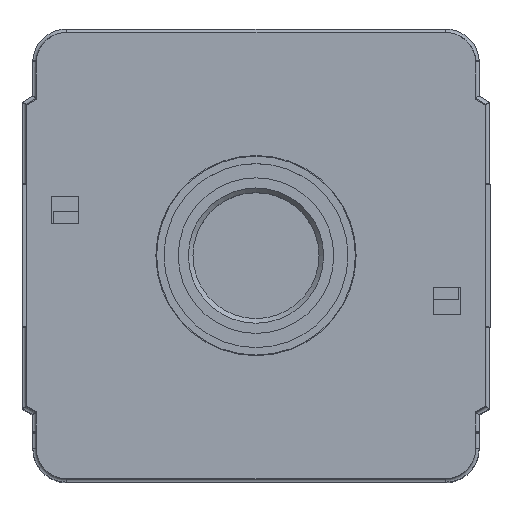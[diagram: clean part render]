
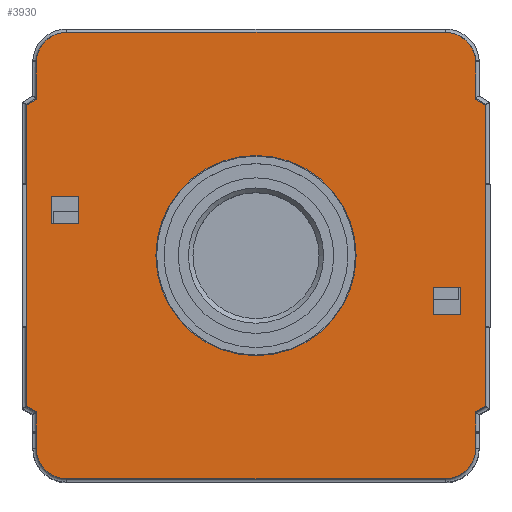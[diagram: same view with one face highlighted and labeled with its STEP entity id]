
A CAD part, top view. The second image highlights one B-rep face of the part: STEP entity #3930.
In plain terms, the highlighted planar face has unit normal (0, 0, 1).
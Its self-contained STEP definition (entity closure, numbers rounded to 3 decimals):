
#3060=CARTESIAN_POINT('',(-14.8,0.,34.4));
#3061=VERTEX_POINT('',#3060);
#3062=CARTESIAN_POINT('',(0.0,0.,34.4));
#3063=DIRECTION('',(0.0,0.0,-1.0));
#3064=DIRECTION('',(1.0,0.0,0.0));
#3065=AXIS2_PLACEMENT_3D('',#3062,#3063,#3064);
#3066=CIRCLE('',#3065,14.8);
#3067=EDGE_CURVE('',#3061,#3061,#3066,.T.);
#3085=CARTESIAN_POINT('',(26.3,-4.7,34.4));
#3086=VERTEX_POINT('',#3085);
#3093=CARTESIAN_POINT('',(26.3,-8.7,34.4));
#3094=VERTEX_POINT('',#3093);
#3095=CARTESIAN_POINT('',(26.3,-8.7,34.4));
#3096=DIRECTION('',(0.0,1.0,0.0));
#3097=VECTOR('',#3096,4.);
#3098=LINE('',#3095,#3097);
#3099=EDGE_CURVE('',#3094,#3086,#3098,.T.);
#3118=CARTESIAN_POINT('',(30.3,-8.7,34.4));
#3119=VERTEX_POINT('',#3118);
#3120=CARTESIAN_POINT('',(30.3,-8.7,34.4));
#3121=DIRECTION('',(-1.0,0.0,0.0));
#3122=VECTOR('',#3121,4.);
#3123=LINE('',#3120,#3122);
#3124=EDGE_CURVE('',#3119,#3094,#3123,.T.);
#3142=CARTESIAN_POINT('',(30.3,-4.7,34.4));
#3143=VERTEX_POINT('',#3142);
#3144=CARTESIAN_POINT('',(30.3,-4.7,34.4));
#3145=DIRECTION('',(0.0,-1.0,0.0));
#3146=VECTOR('',#3145,4.);
#3147=LINE('',#3144,#3146);
#3148=EDGE_CURVE('',#3143,#3119,#3147,.T.);
#3166=CARTESIAN_POINT('',(26.3,-4.7,34.4));
#3167=DIRECTION('',(1.0,0.0,0.0));
#3168=VECTOR('',#3167,4.);
#3169=LINE('',#3166,#3168);
#3170=EDGE_CURVE('',#3086,#3143,#3169,.T.);
#3188=CARTESIAN_POINT('',(-30.3,8.7,34.4));
#3189=VERTEX_POINT('',#3188);
#3196=CARTESIAN_POINT('',(-30.3,4.7,34.4));
#3197=VERTEX_POINT('',#3196);
#3198=CARTESIAN_POINT('',(-30.3,4.7,34.4));
#3199=DIRECTION('',(0.0,1.0,0.0));
#3200=VECTOR('',#3199,4.);
#3201=LINE('',#3198,#3200);
#3202=EDGE_CURVE('',#3197,#3189,#3201,.T.);
#3220=CARTESIAN_POINT('',(-26.3,4.7,34.4));
#3221=VERTEX_POINT('',#3220);
#3222=CARTESIAN_POINT('',(-26.3,4.7,34.4));
#3223=DIRECTION('',(-1.0,0.0,0.0));
#3224=VECTOR('',#3223,4.0);
#3225=LINE('',#3222,#3224);
#3226=EDGE_CURVE('',#3221,#3197,#3225,.T.);
#3257=CARTESIAN_POINT('',(-26.3,8.7,34.4));
#3258=VERTEX_POINT('',#3257);
#3259=CARTESIAN_POINT('',(-26.3,8.7,34.4));
#3260=DIRECTION('',(0.0,-1.0,0.0));
#3261=VECTOR('',#3260,4.0);
#3262=LINE('',#3259,#3261);
#3263=EDGE_CURVE('',#3258,#3221,#3262,.T.);
#3282=CARTESIAN_POINT('',(-30.3,8.7,34.4));
#3283=DIRECTION('',(1.0,0.0,0.0));
#3284=VECTOR('',#3283,4.0);
#3285=LINE('',#3282,#3284);
#3286=EDGE_CURVE('',#3189,#3258,#3285,.T.);
#3324=CARTESIAN_POINT('',(-32.5,28.5,34.4));
#3325=VERTEX_POINT('',#3324);
#3332=CARTESIAN_POINT('',(-28.,33.0,34.4));
#3333=VERTEX_POINT('',#3332);
#3334=CARTESIAN_POINT('',(-28.,28.5,34.4));
#3335=DIRECTION('',(0.0,0.0,1.0));
#3336=DIRECTION('',(1.0,0.0,0.0));
#3337=AXIS2_PLACEMENT_3D('',#3334,#3335,#3336);
#3338=CIRCLE('',#3337,4.5);
#3339=EDGE_CURVE('',#3333,#3325,#3338,.T.);
#3371=CARTESIAN_POINT('',(-32.5,23.1,34.4));
#3372=VERTEX_POINT('',#3371);
#3379=CARTESIAN_POINT('',(-32.5,28.5,34.4));
#3380=DIRECTION('',(0.0,-1.0,0.0));
#3381=VECTOR('',#3380,5.4);
#3382=LINE('',#3379,#3381);
#3383=EDGE_CURVE('',#3325,#3372,#3382,.T.);
#3402=CARTESIAN_POINT('',(-34.,22.234,34.4));
#3403=VERTEX_POINT('',#3402);
#3410=CARTESIAN_POINT('',(-32.5,23.1,34.4));
#3411=DIRECTION('',(-0.866,-0.5,0.0));
#3412=VECTOR('',#3411,1.732);
#3413=LINE('',#3410,#3412);
#3414=EDGE_CURVE('',#3372,#3403,#3413,.T.);
#3442=CARTESIAN_POINT('',(-34.0,-22.234,34.4));
#3443=VERTEX_POINT('',#3442);
#3450=CARTESIAN_POINT('',(-34.,22.234,34.4));
#3451=DIRECTION('',(0.0,-1.0,0.0));
#3452=VECTOR('',#3451,44.468);
#3453=LINE('',#3450,#3452);
#3454=EDGE_CURVE('',#3403,#3443,#3453,.T.);
#3473=CARTESIAN_POINT('',(-32.5,-23.1,34.4));
#3474=VERTEX_POINT('',#3473);
#3481=CARTESIAN_POINT('',(-34.0,-22.234,34.4));
#3482=DIRECTION('',(0.866,-0.5,0.0));
#3483=VECTOR('',#3482,1.732);
#3484=LINE('',#3481,#3483);
#3485=EDGE_CURVE('',#3443,#3474,#3484,.T.);
#3519=CARTESIAN_POINT('',(-32.5,-28.5,34.4));
#3520=VERTEX_POINT('',#3519);
#3527=CARTESIAN_POINT('',(-32.5,-23.1,34.4));
#3528=DIRECTION('',(0.0,-1.0,0.0));
#3529=VECTOR('',#3528,5.4);
#3530=LINE('',#3527,#3529);
#3531=EDGE_CURVE('',#3474,#3520,#3530,.T.);
#3551=CARTESIAN_POINT('',(-28.,-33.,34.4));
#3552=VERTEX_POINT('',#3551);
#3559=CARTESIAN_POINT('',(-28.,-28.5,34.4));
#3560=DIRECTION('',(0.0,0.0,1.0));
#3561=DIRECTION('',(0.0,1.0,0.0));
#3562=AXIS2_PLACEMENT_3D('',#3559,#3560,#3561);
#3563=CIRCLE('',#3562,4.5);
#3564=EDGE_CURVE('',#3520,#3552,#3563,.T.);
#3583=CARTESIAN_POINT('',(28.,-33.0,34.4));
#3584=VERTEX_POINT('',#3583);
#3591=CARTESIAN_POINT('',(-28.,-33.,34.4));
#3592=DIRECTION('',(1.0,0.0,0.0));
#3593=VECTOR('',#3592,56.0);
#3594=LINE('',#3591,#3593);
#3595=EDGE_CURVE('',#3552,#3584,#3594,.T.);
#3615=CARTESIAN_POINT('',(32.5,-28.5,34.4));
#3616=VERTEX_POINT('',#3615);
#3623=CARTESIAN_POINT('',(28.,-28.5,34.4));
#3624=DIRECTION('',(0.0,0.0,1.0));
#3625=DIRECTION('',(-1.0,0.0,0.0));
#3626=AXIS2_PLACEMENT_3D('',#3623,#3624,#3625);
#3627=CIRCLE('',#3626,4.5);
#3628=EDGE_CURVE('',#3584,#3616,#3627,.T.);
#3662=CARTESIAN_POINT('',(32.5,-23.1,34.4));
#3663=VERTEX_POINT('',#3662);
#3670=CARTESIAN_POINT('',(32.5,-28.5,34.4));
#3671=DIRECTION('',(0.0,1.0,0.0));
#3672=VECTOR('',#3671,5.4);
#3673=LINE('',#3670,#3672);
#3674=EDGE_CURVE('',#3616,#3663,#3673,.T.);
#3693=CARTESIAN_POINT('',(34.,-22.234,34.4));
#3694=VERTEX_POINT('',#3693);
#3701=CARTESIAN_POINT('',(32.5,-23.1,34.4));
#3702=DIRECTION('',(0.866,0.5,0.0));
#3703=VECTOR('',#3702,1.732);
#3704=LINE('',#3701,#3703);
#3705=EDGE_CURVE('',#3663,#3694,#3704,.T.);
#3733=CARTESIAN_POINT('',(34.0,22.234,34.4));
#3734=VERTEX_POINT('',#3733);
#3741=CARTESIAN_POINT('',(34.,-22.234,34.4));
#3742=DIRECTION('',(0.0,1.0,0.0));
#3743=VECTOR('',#3742,44.468);
#3744=LINE('',#3741,#3743);
#3745=EDGE_CURVE('',#3694,#3734,#3744,.T.);
#3764=CARTESIAN_POINT('',(32.5,23.1,34.4));
#3765=VERTEX_POINT('',#3764);
#3772=CARTESIAN_POINT('',(34.0,22.234,34.4));
#3773=DIRECTION('',(-0.866,0.5,0.0));
#3774=VECTOR('',#3773,1.732);
#3775=LINE('',#3772,#3774);
#3776=EDGE_CURVE('',#3734,#3765,#3775,.T.);
#3803=CARTESIAN_POINT('',(32.5,28.5,34.4));
#3804=VERTEX_POINT('',#3803);
#3811=CARTESIAN_POINT('',(32.5,23.1,34.4));
#3812=DIRECTION('',(0.0,1.0,0.0));
#3813=VECTOR('',#3812,5.4);
#3814=LINE('',#3811,#3813);
#3815=EDGE_CURVE('',#3765,#3804,#3814,.T.);
#3851=CARTESIAN_POINT('',(28.,33.,34.4));
#3852=VERTEX_POINT('',#3851);
#3859=CARTESIAN_POINT('',(28.,28.5,34.4));
#3860=DIRECTION('',(0.0,0.0,1.0));
#3861=DIRECTION('',(0.0,-1.0,0.0));
#3862=AXIS2_PLACEMENT_3D('',#3859,#3860,#3861);
#3863=CIRCLE('',#3862,4.5);
#3864=EDGE_CURVE('',#3804,#3852,#3863,.T.);
#3882=CARTESIAN_POINT('',(28.,33.,34.4));
#3883=DIRECTION('',(-1.0,0.0,0.0));
#3884=VECTOR('',#3883,56.0);
#3885=LINE('',#3882,#3884);
#3886=EDGE_CURVE('',#3852,#3333,#3885,.T.);
#3892=CARTESIAN_POINT('',(0.,0.,34.4));
#3893=DIRECTION('',(0.0,0.0,-1.0));
#3894=DIRECTION('',(-1.0,0.0,0.0));
#3895=AXIS2_PLACEMENT_3D('',#3892,#3893,#3894);
#3896=PLANE('',#3895);
#3897=ORIENTED_EDGE('',*,*,#3886,.T.);
#3898=ORIENTED_EDGE('',*,*,#3339,.T.);
#3899=ORIENTED_EDGE('',*,*,#3383,.T.);
#3900=ORIENTED_EDGE('',*,*,#3414,.T.);
#3901=ORIENTED_EDGE('',*,*,#3454,.T.);
#3902=ORIENTED_EDGE('',*,*,#3485,.T.);
#3903=ORIENTED_EDGE('',*,*,#3531,.T.);
#3904=ORIENTED_EDGE('',*,*,#3564,.T.);
#3905=ORIENTED_EDGE('',*,*,#3595,.T.);
#3906=ORIENTED_EDGE('',*,*,#3628,.T.);
#3907=ORIENTED_EDGE('',*,*,#3674,.T.);
#3908=ORIENTED_EDGE('',*,*,#3705,.T.);
#3909=ORIENTED_EDGE('',*,*,#3745,.T.);
#3910=ORIENTED_EDGE('',*,*,#3776,.T.);
#3911=ORIENTED_EDGE('',*,*,#3815,.T.);
#3912=ORIENTED_EDGE('',*,*,#3864,.T.);
#3913=EDGE_LOOP('',(#3897,#3898,#3899,#3900,#3901,#3902,#3903,#3904,#3905,#3906,#3907,#3908,#3909,#3910,#3911,#3912));
#3914=FACE_OUTER_BOUND('',#3913,.T.);
#3915=ORIENTED_EDGE('',*,*,#3067,.T.);
#3916=EDGE_LOOP('',(#3915));
#3917=FACE_BOUND('',#3916,.T.);
#3918=ORIENTED_EDGE('',*,*,#3099,.T.);
#3919=ORIENTED_EDGE('',*,*,#3170,.T.);
#3920=ORIENTED_EDGE('',*,*,#3148,.T.);
#3921=ORIENTED_EDGE('',*,*,#3124,.T.);
#3922=EDGE_LOOP('',(#3918,#3919,#3920,#3921));
#3923=FACE_BOUND('',#3922,.T.);
#3924=ORIENTED_EDGE('',*,*,#3202,.T.);
#3925=ORIENTED_EDGE('',*,*,#3286,.T.);
#3926=ORIENTED_EDGE('',*,*,#3263,.T.);
#3927=ORIENTED_EDGE('',*,*,#3226,.T.);
#3928=EDGE_LOOP('',(#3924,#3925,#3926,#3927));
#3929=FACE_BOUND('',#3928,.T.);
#3930=ADVANCED_FACE('',(#3914,#3917,#3923,#3929),#3896,.F.);
